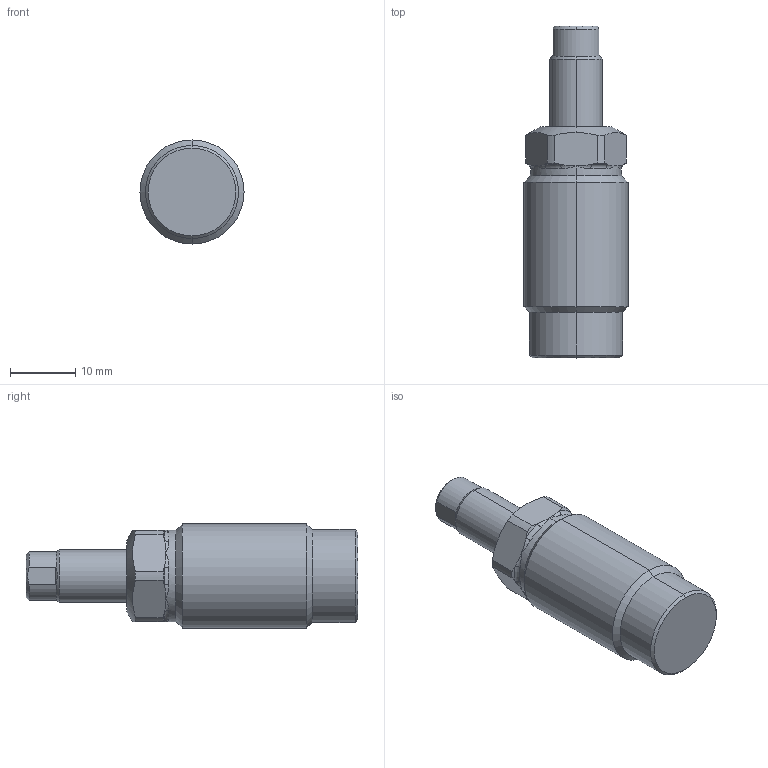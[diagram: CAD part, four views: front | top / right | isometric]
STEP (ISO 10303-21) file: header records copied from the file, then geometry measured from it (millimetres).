
FILE_DESCRIPTION((' '),'2;1');
FILE_NAME( 'TGM01-10.x_t.stp', '2024-08-27T13:43:48', (' '), ('--- Datakit www.datakit.com---'), ' Datakit CrossCadWare V2024.1 Dec 21 2023', 'Mastercam 2025', ' ');
FILE_SCHEMA(('AUTOMOTIVE_DESIGN { 1 0 10303 214 1 1 1 1 }'));
Length unit declared in the file: millimetre
Products named in the file (1): TGM01-10
Bounding box: 16 x 51 x 16 mm (x, y, z)
Volume: 6552.2 mm3; surface area: 2906.2 mm2
Topology: 2 solids, 2 shells, 77 faces, 189 edges, 107 vertices
Faces by surface type: cylinder 22, cone 20, plane 17, bspline 12, torus 6
Entity records: 3792 total; most frequent: CARTESIAN_POINT 2052, ORIENTED_EDGE 354, DIRECTION 348, EDGE_CURVE 177, AXIS2_PLACEMENT_3D 151, VERTEX_POINT 107, EDGE_LOOP 80, CIRCLE 79
